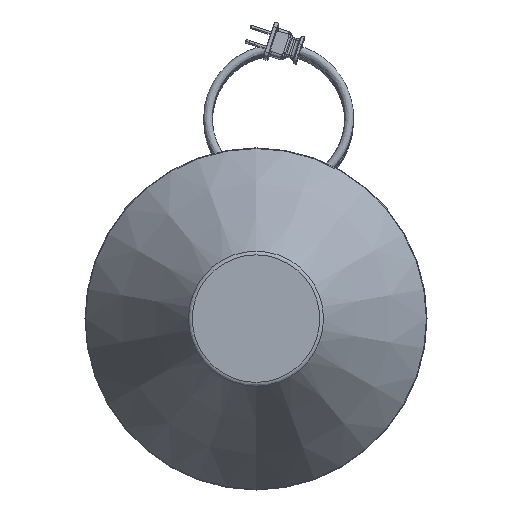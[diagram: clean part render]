
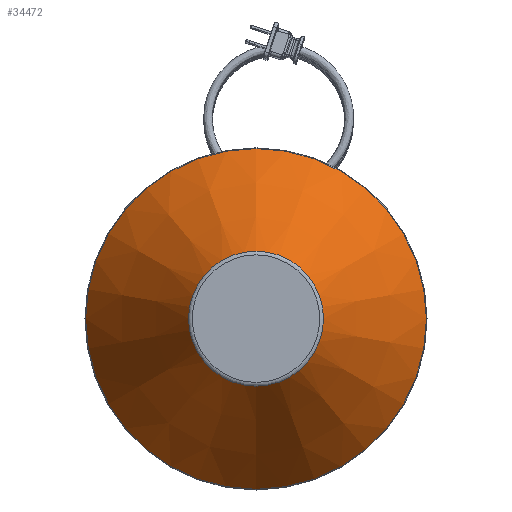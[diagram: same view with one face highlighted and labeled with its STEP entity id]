
A CAD part, top view. The second image highlights one B-rep face of the part: STEP entity #34472.
In plain terms, the highlighted conical face has half-angle 32.969 degrees and reference radius 85.717 mm.
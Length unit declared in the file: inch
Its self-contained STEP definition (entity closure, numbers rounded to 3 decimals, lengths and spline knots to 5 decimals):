
#2955=LINE('',#44695,#6216);
#6216=VECTOR('',#38296,3.3747);
#9475=CONICAL_SURFACE('',#36667,3.3747,0.575);
#9554=FACE_OUTER_BOUND('',#11552,.T.);
#11552=EDGE_LOOP('',(#22927,#22928,#22929,#22930,#22931,#22932));
#13736=CIRCLE('',#36664,4.83462);
#13737=CIRCLE('',#36665,4.83462);
#13739=CIRCLE('',#36668,1.91477);
#13740=CIRCLE('',#36669,1.91477);
#14092=VERTEX_POINT('',#44686);
#14093=VERTEX_POINT('',#44687);
#14094=VERTEX_POINT('',#44692);
#14095=VERTEX_POINT('',#44693);
#17589=EDGE_CURVE('',#14092,#14093,#13736,.T.);
#17590=EDGE_CURVE('',#14093,#14092,#13737,.T.);
#17592=EDGE_CURVE('',#14094,#14095,#13739,.T.);
#17593=EDGE_CURVE('',#14094,#14092,#2955,.T.);
#17594=EDGE_CURVE('',#14095,#14094,#13740,.T.);
#22927=ORIENTED_EDGE('',*,*,#17592,.F.);
#22928=ORIENTED_EDGE('',*,*,#17593,.T.);
#22929=ORIENTED_EDGE('',*,*,#17589,.T.);
#22930=ORIENTED_EDGE('',*,*,#17590,.T.);
#22931=ORIENTED_EDGE('',*,*,#17593,.F.);
#22932=ORIENTED_EDGE('',*,*,#17594,.F.);
#34472=ADVANCED_FACE('',(#9554),#9475,.T.);
#36664=AXIS2_PLACEMENT_3D('',#44688,#38286,#38287);
#36665=AXIS2_PLACEMENT_3D('',#44689,#38288,#38289);
#36667=AXIS2_PLACEMENT_3D('',#44691,#38292,#38293);
#36668=AXIS2_PLACEMENT_3D('',#44694,#38294,#38295);
#36669=AXIS2_PLACEMENT_3D('',#44696,#38297,#38298);
#38286=DIRECTION('center_axis',(0.,0.,
1.));
#38287=DIRECTION('ref_axis',(0.,-1.,0.));
#38288=DIRECTION('center_axis',(0.,0.,
1.));
#38289=DIRECTION('ref_axis',(0.,-1.,0.));
#38292=DIRECTION('center_axis',(0.,0.,
-1.));
#38293=DIRECTION('ref_axis',(0.,-1.,0.));
#38294=DIRECTION('center_axis',(0.,0.,
1.));
#38295=DIRECTION('ref_axis',(0.,-1.,0.));
#38296=DIRECTION('',(0.,0.544,-0.839));
#38297=DIRECTION('center_axis',(0.,0.,
1.));
#38298=DIRECTION('ref_axis',(0.,-1.,0.));
#44686=CARTESIAN_POINT('',(0.,4.83462,5.19839));
#44687=CARTESIAN_POINT('',(-4.83462,0.,5.19839));
#44688=CARTESIAN_POINT('Origin',(0.,0.,
5.19839));
#44689=CARTESIAN_POINT('Origin',(0.,0.,
5.19839));
#44691=CARTESIAN_POINT('Origin',(0.,0.,
7.44911));
#44692=CARTESIAN_POINT('',(0.,1.91477,9.69982));
#44693=CARTESIAN_POINT('',(-1.91477,0.,9.69982));
#44694=CARTESIAN_POINT('Origin',(0.,0.,
9.69982));
#44695=CARTESIAN_POINT('',(0.,3.3747,7.44911));
#44696=CARTESIAN_POINT('Origin',(0.,0.,
9.69982));
